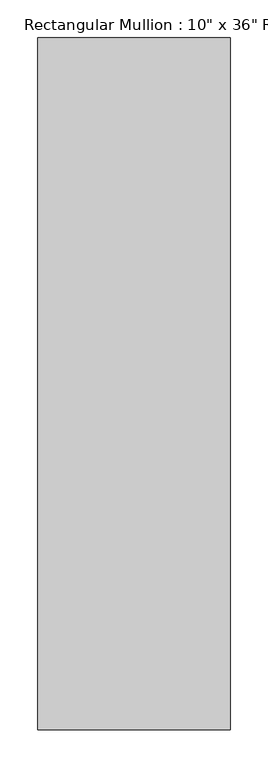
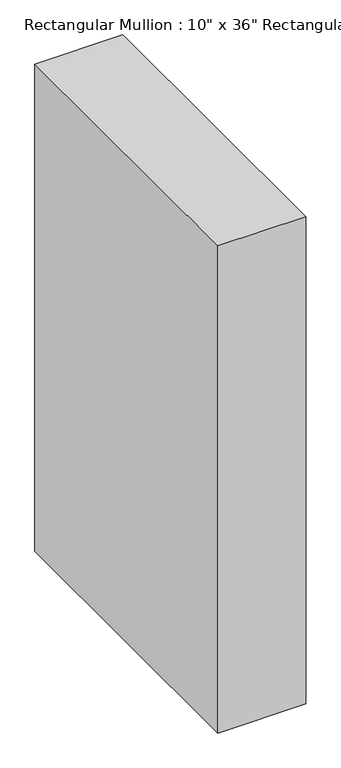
"""IFC4 building model written with IfcOpenShell, lengths in millimetres: member geometry."""

from ifc_helpers import new_model, si_unit, frame, origin, place, context, project, spatial, polyline, outline, extrude, source, transform, mapped, element, save


def member_149e1dcb(model_context):
    return source(origin(), model_context, "Body", "SweptSolid", [
        extrude(outline(polyline([(0.0, 850.9), (0.0, -63.5), (-254.0, -63.5), (-254.0, 850.9), (0.0, 850.9)])), frame((0.0, 0.0, -1486.0), z_axis=(0.0, 0.0, 1.0), x_axis=(1.0, 0.0, 0.0)), (0.0, 0.0, 1.0), 1486.0),
    ])


if __name__ == "__main__":
    model = new_model("IFC4")
    model_context = context("Model", 3, world=origin())
    ifc_project = project(units=[si_unit("LENGTHUNIT", "METRE", prefix="MILLI")], contexts=[model_context])
    site = spatial("IfcSite", under=ifc_project)
    building = spatial("IfcBuilding", under=site)
    placement = place(None, origin())
    member_shape = member_149e1dcb(model_context)
    element("IfcMember", 1, ObjectType="Rectangular Mullion : 10\" x 36\" Rectangular", at=placement, inside=building, context=model_context, shape_type="MappedRepresentation", body=[
        mapped(member_shape, transform((0.0, 0.0, 0.0), x_axis=(1.0, 0.0, 0.0), y_axis=(0.0, 1.0, 0.0), z_axis=(0.0, 0.0, 1.0))),
    ])
    save(model, "model.ifc")
